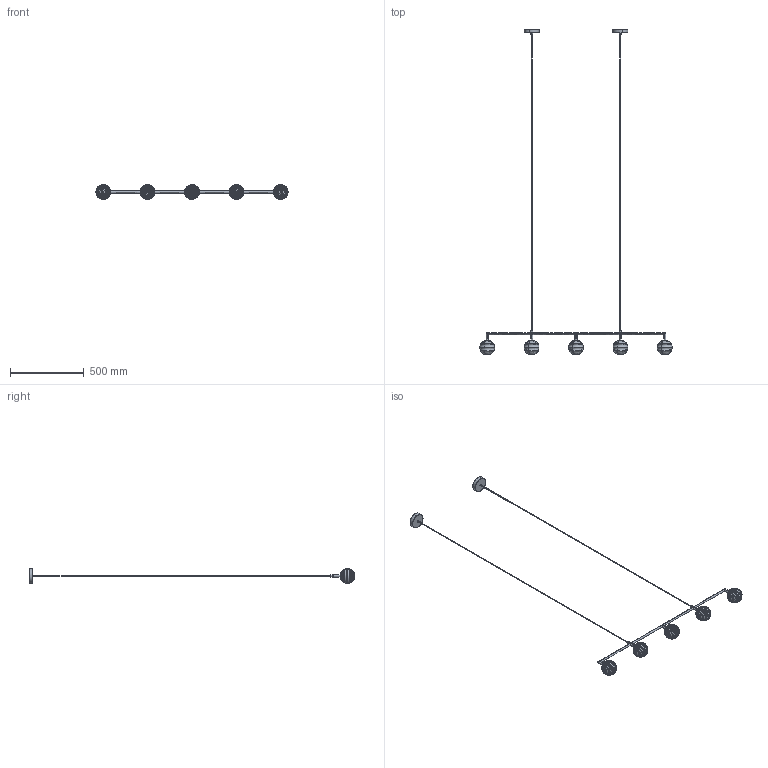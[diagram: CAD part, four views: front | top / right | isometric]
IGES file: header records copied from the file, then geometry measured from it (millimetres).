
Start section: SolidWorks IGES file using analytic representation for surfaces
Global section: file name: C:\Users\Agus\Desktop\NOVEDADES_2023_1\DOUL_1310\C1310_5\3D\DOUL_C1310-5.IGS; native system: SolidWorks 2018; preprocessor: SolidWorks 2018; author: Agus; date: 230214.123619; units: millimetre
Bounding box: 1299.42 x 2204 x 99.98 mm (x, y, z)
Surface area: 537004 mm2 (no closed solid volume)
Topology: 0 solids, 0 shells, 298 faces, 5246 edges, 5241 vertices
Faces by surface type: bspline 189, revolution 109
